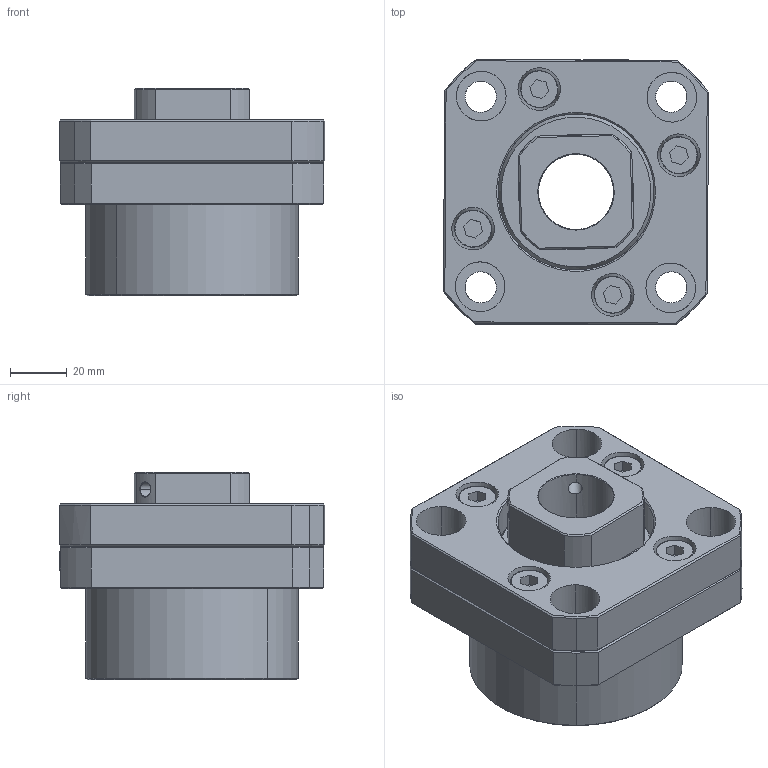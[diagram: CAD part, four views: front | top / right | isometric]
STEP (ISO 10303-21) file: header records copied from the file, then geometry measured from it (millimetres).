
FILE_DESCRIPTION (( 'STEP AP214' ), '1' );
FILE_NAME ('7.4022 FK30.STEP', '2026-03-06T07:45:23', ( '' ), ( '' ), 'SwSTEP 2.0', 'SolidWorks 2025', '' );
FILE_SCHEMA (( 'AUTOMOTIVE_DESIGN' ));
Length unit declared in the file: millimetre
Products named in the file (1): 7.4022 FK30
Bounding box: 93.43 x 93.43 x 73 mm (x, y, z)
Surface area: 64998.5 mm2 (no closed solid volume)
Topology: 0 solids, 10 shells, 251 faces, 658 edges, 423 vertices
Faces by surface type: plane 105, cylinder 65, cone 50, bspline 31
Entity records: 15463 total; most frequent: CARTESIAN_POINT 10348, ORIENTED_EDGE 1248, EDGE_CURVE 658, B_SPLINE_CURVE_WITH_KNOTS 634, DIRECTION 442, VERTEX_POINT 423, EDGE_LOOP 299, FACE_OUTER_BOUND 251
